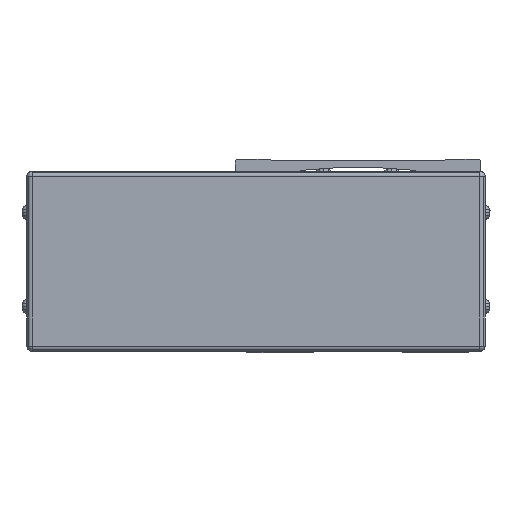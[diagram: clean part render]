
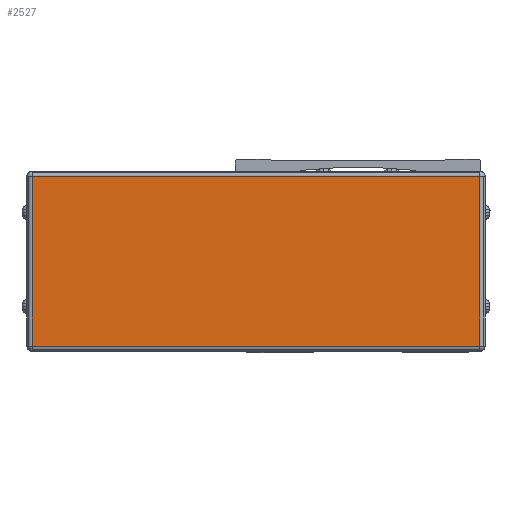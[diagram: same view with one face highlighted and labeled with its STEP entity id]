
A CAD part, front view. The second image highlights one B-rep face of the part: STEP entity #2527.
In plain terms, the highlighted planar face has unit normal (0, -1, 0).
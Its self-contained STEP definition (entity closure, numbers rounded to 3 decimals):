
#2527=ADVANCED_FACE('',(#6735),#6736,.F.);
#6735=FACE_OUTER_BOUND('',#13184,.T.);
#6736=PLANE('',#13185);
#13184=EDGE_LOOP('',(#22113,#22114,#22115,#22116));
#13185=AXIS2_PLACEMENT_3D('',#22117,#22118,#22119);
#22113=ORIENTED_EDGE('',*,*,#39162,.T.);
#22114=ORIENTED_EDGE('',*,*,#39163,.T.);
#22115=ORIENTED_EDGE('',*,*,#39164,.T.);
#22116=ORIENTED_EDGE('',*,*,#38779,.T.);
#22117=CARTESIAN_POINT('',(-39.,-188.778,-42.5));
#22118=DIRECTION('',(0.0,1.0,-0.0));
#22119=DIRECTION('',(-1.0,0.0,0.0));
#38779=EDGE_CURVE('',#46874,#46872,#46875,.T.);
#39162=EDGE_CURVE('',#46872,#47529,#47530,.T.);
#39163=EDGE_CURVE('',#47529,#47531,#47532,.T.);
#39164=EDGE_CURVE('',#47531,#46874,#47533,.T.);
#46872=VERTEX_POINT('',#58210);
#46874=VERTEX_POINT('',#58212);
#46875=LINE('',#58213,#58214);
#47529=VERTEX_POINT('',#59174);
#47530=LINE('',#59175,#59176);
#47531=VERTEX_POINT('',#59177);
#47532=LINE('',#59178,#59179);
#47533=LINE('',#59180,#59181);
#58210=CARTESIAN_POINT('',(-124.7,-188.778,-40.5));
#58212=CARTESIAN_POINT('',(-124.7,-188.778,24.5));
#58213=CARTESIAN_POINT('',(-124.7,-188.778,-42.5));
#58214=VECTOR('',#71846,10.0);
#59174=CARTESIAN_POINT('',(46.7,-188.778,-40.5));
#59175=CARTESIAN_POINT('',(-39.,-188.778,-40.5));
#59176=VECTOR('',#72397,10.0);
#59177=CARTESIAN_POINT('',(46.7,-188.778,24.5));
#59178=CARTESIAN_POINT('',(46.7,-188.778,-42.5));
#59179=VECTOR('',#72398,10.0);
#59180=CARTESIAN_POINT('',(-39.,-188.778,24.5));
#59181=VECTOR('',#72399,10.0);
#71846=DIRECTION('',(-0.0,0.0,-1.0));
#72397=DIRECTION('',(1.0,0.0,0.0));
#72398=DIRECTION('',(0.0,0.0,1.0));
#72399=DIRECTION('',(-1.0,0.0,0.0));
